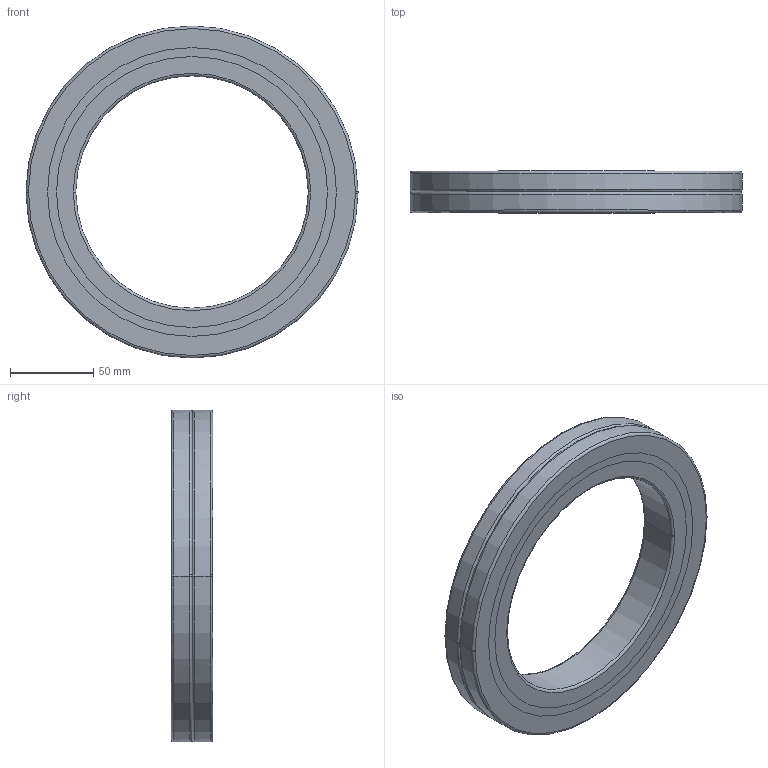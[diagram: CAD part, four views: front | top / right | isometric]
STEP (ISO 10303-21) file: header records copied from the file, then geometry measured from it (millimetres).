
FILE_DESCRIPTION(('no description'),'unknown implementation level');
FILE_NAME('CRBA14025_32.stp',' ',('HIWIN GmbH'),('CADClick - KiM GmbH - www.kimweb.de'),'unknown preprocess','ACIS','unknown authorization');
FILE_SCHEMA(('automotive_design'));
Length unit declared in the file: millimetre
Products named in the file (5): CRBA14025_1; CRBA14025_2; CRBA14025_3; CRBA14025_4; CRBA14025
Bounding box: 200 x 25 x 200 mm (x, y, z)
Volume: 338851.9 mm3; surface area: 108277.3 mm2
Topology: 5 solids, 5 shells, 54 faces, 120 edges, 76 vertices
Faces by surface type: torus 24, cylinder 20, plane 10
Entity records: 3096 total; most frequent: DIRECTION 338, STYLED_ITEM 255, PRESENTATION_STYLE_ASSIGNMENT 255, CARTESIAN_POINT 255, COLOUR_RGB 255, ORIENTED_EDGE 240, AXIS2_PLACEMENT_3D 159, EDGE_CURVE 120
